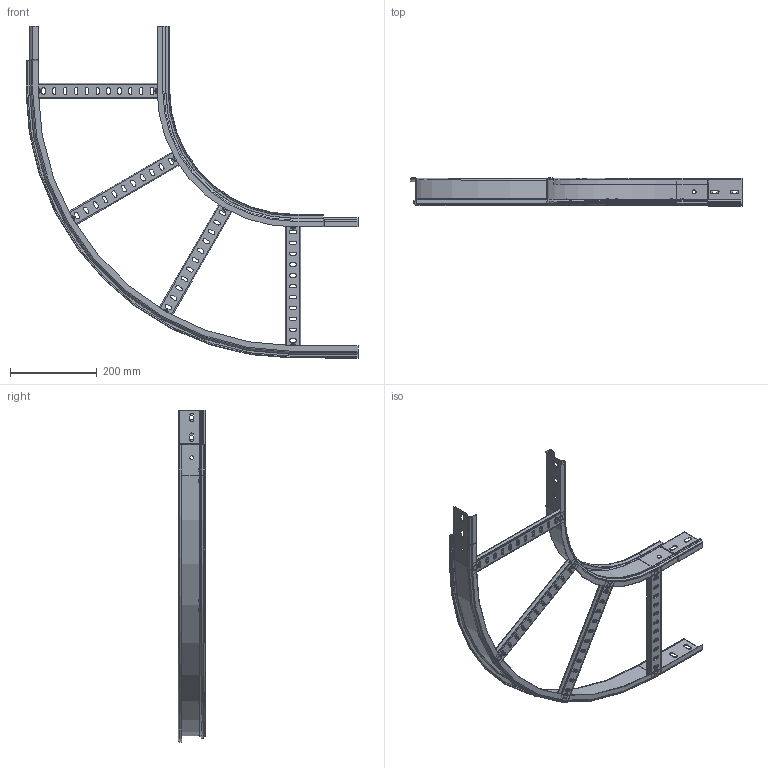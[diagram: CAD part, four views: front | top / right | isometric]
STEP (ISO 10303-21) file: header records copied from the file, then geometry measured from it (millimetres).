
FILE_DESCRIPTION (( 'STEP AP203' ), '1' );
FILE_NAME ('300x63.step', '2023-08-01T07:34:11', ( '' ), ( '' ), 'SwSTEP 2.0', 'SolidWorks 2022', '' );
FILE_SCHEMA (( 'CONFIG_CONTROL_DESIGN' ));
Length unit declared in the file: millimetre
Products named in the file (4): FER_INTERIOR CP_Circular_Enchufable_60; FER_EXTERIOR CP_Circular_Enchufable_300x63; 300x63; Travesaño RAT35 FER GS_300
Assembly tree (6 placements, depth 2):
  300x63
    FER_INTERIOR CP_Circular_Enchufable_60
    Travesaño RAT35 FER GS_300  x4
    FER_EXTERIOR CP_Circular_Enchufable_300x63
Bounding box: 765.4 x 64.2 x 765.4 mm (x, y, z)
Volume: 119508.2 mm3; surface area: 573010.5 mm2
Topology: 4 solids, 10 shells, 716 faces, 1782 edges, 1098 vertices
Faces by surface type: plane 376, cylinder 234, torus 86, cone 18, bspline 2
Entity records: 12034 total; most frequent: CARTESIAN_POINT 2102, DIRECTION 2070, ORIENTED_EDGE 1868, EDGE_CURVE 966, AXIS2_PLACEMENT_3D 740, VERTEX_POINT 594, LINE 590, VECTOR 590
